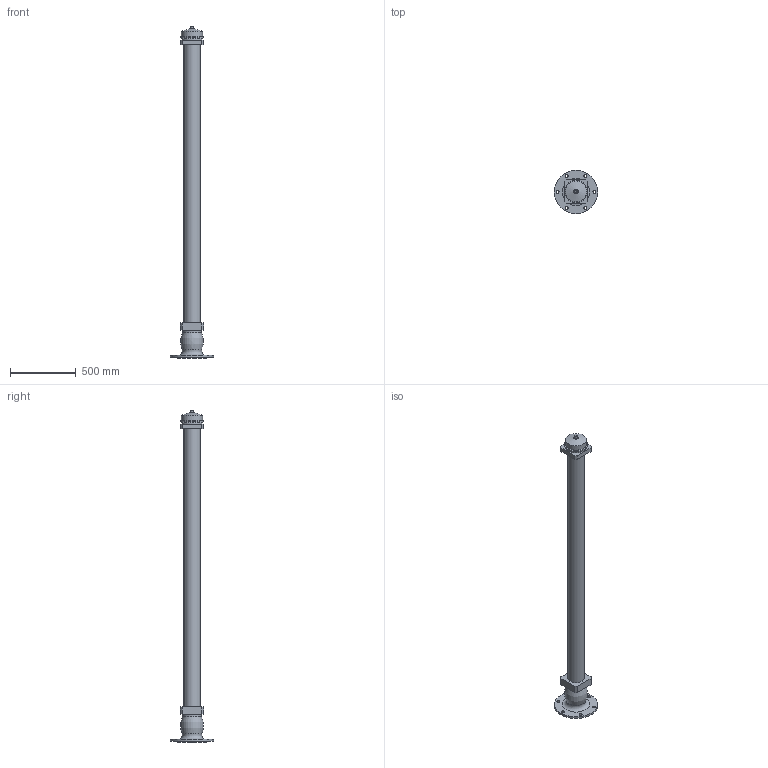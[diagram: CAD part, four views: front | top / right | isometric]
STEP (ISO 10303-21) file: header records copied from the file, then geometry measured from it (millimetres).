
FILE_DESCRIPTION(('STEP AP203'), '1');
FILE_NAME('Ãèäðàíò GPP 2500 ïîæàðíûé ïîäçåìíûé', '', ('UNSPECIFIED'), ('UNSPECIFIED'), 'ASCON STEP Converter 1.6', 'ASCON Math Kernel', '');
FILE_SCHEMA(('CONFIG_CONTROL_DESIGN'));
Length unit declared in the file: millimetre
Bounding box: 330 x 330 x 2522 mm (x, y, z)
Volume: 37343564.4 mm3; surface area: 1313480.6 mm2
Topology: 1 solids, 1 shells, 47 faces, 104 edges, 67 vertices
Faces by surface type: plane 26, cylinder 12, cone 7, torus 2
Full cylindrical faces by diameter (mm): 20 x1, 22 x6, 129 x1, 142 x1, 143 x1, 157.302 x1, 160 x1
Entity records: 1617 total; most frequent: DIRECTION 212, CARTESIAN_POINT 196, ORIENTED_EDGE 164, EDGE_LOOP 88, AXIS2_PLACEMENT_3D 82, EDGE_CURVE 82, VERTEX_POINT 66, COLOUR_RGB 48
